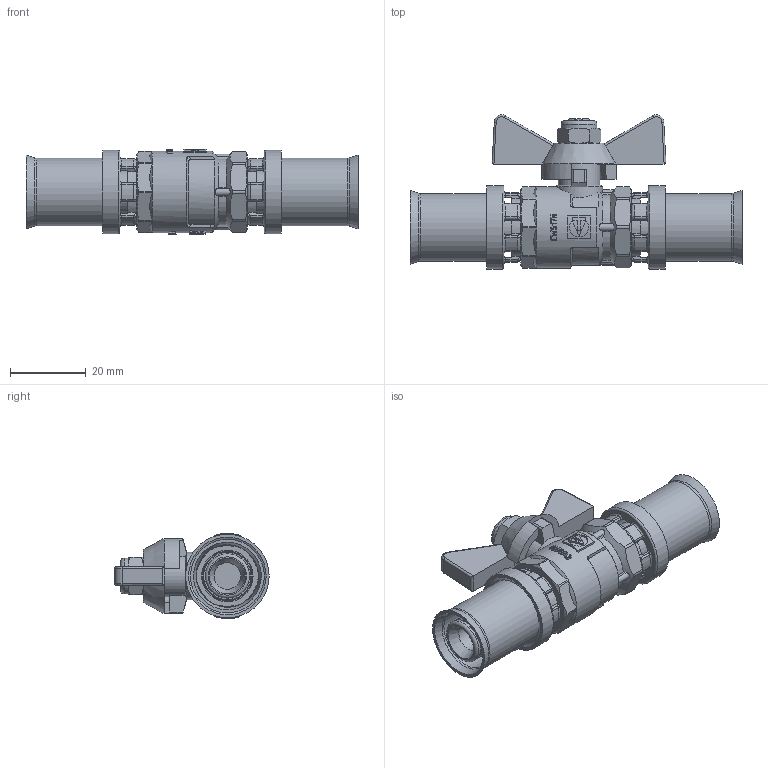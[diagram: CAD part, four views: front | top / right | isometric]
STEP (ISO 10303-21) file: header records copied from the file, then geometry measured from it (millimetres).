
FILE_DESCRIPTION(('STEP AP203'), '1');
FILE_NAME('VT.243.N.1616', '', ('UNSPECIFIED'), ('UNSPECIFIED'), 'C3D Converter', 'C3D Toolkit', '');
FILE_SCHEMA(('CONFIG_CONTROL_DESIGN'));
Length unit declared in the file: millimetre
Products named in the file (1): ВР.491812.034.000 СБ
Bounding box: 87.8 x 40.8 x 22.5 mm (x, y, z)
Volume: 20580.2 mm3; surface area: 17159.7 mm2
Topology: 1 solids, 5 shells, 1095 faces, 2909 edges, 1867 vertices
Faces by surface type: plane 347, extrusion 322, cylinder 222, torus 99, cone 75, bspline 30
Full cylindrical faces by diameter (mm): 6 x1, 7 x2, 8 x1, 9.4 x2, 9.5 x1, 10.3 x2, 11 x1, 11.75 x11, 11.752 x1, 12.5 x1, 12.7 x2, 12.8 x2, 13.1 x2, 13.6 x2, 16.4 x2, 16.5 x2, 17.3 x2, 17.9 x2, 18 x2, 18.8 x2, 18.9 x2, 21.5 x1, 22.1 x2
Entity records: 44869 total; most frequent: CARTESIAN_POINT 19918, ORIENTED_EDGE 5564, DIRECTION 4198, EDGE_CURVE 2782, VERTEX_POINT 1865, AXIS2_PLACEMENT_3D 1424, VECTOR 1350, EDGE_LOOP 1295
